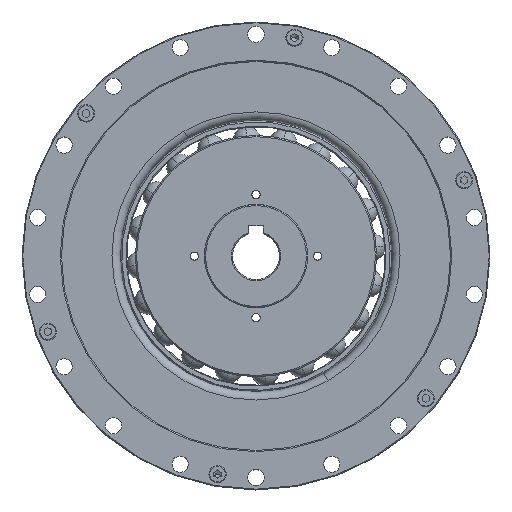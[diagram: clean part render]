
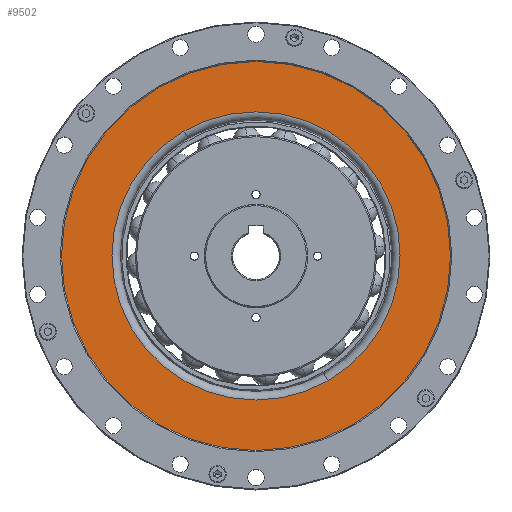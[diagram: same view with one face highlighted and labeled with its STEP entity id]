
A CAD part, top view. The second image highlights one B-rep face of the part: STEP entity #9502.
In plain terms, the highlighted planar face has unit normal (0, 0, 1).
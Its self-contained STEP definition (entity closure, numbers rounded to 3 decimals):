
#1622 = EDGE_CURVE ( 'NONE', #3276, #8351, #14871, .T. ) ;
#2222 = AXIS2_PLACEMENT_3D ( 'NONE', #12765, #11130, #5988 ) ;
#3276 = VERTEX_POINT ( 'NONE', #4435 ) ;
#3431 = CARTESIAN_POINT ( 'NONE',  ( -43.56, 82.994, 196.2 ) ) ;
#3452 = CARTESIAN_POINT ( 'NONE',  ( 25.196, -36.094, 196.2 ) ) ;
#3607 = CIRCLE ( 'NONE', #16686, 79. ) ;
#3622 = FACE_OUTER_BOUND ( 'NONE', #14809, .T. ) ;
#3718 = AXIS2_PLACEMENT_3D ( 'NONE', #10792, #10831, #10927 ) ;
#3729 = EDGE_CURVE ( 'NONE', #8351, #3276, #10529, .T. ) ;
#4000 = FACE_BOUND ( 'NONE', #12337, .T. ) ;
#4334 = EDGE_CURVE ( 'NONE', #6882, #12155, #16132, .T. ) ;
#4435 = CARTESIAN_POINT ( 'NONE',  ( -33.315, 65.25, 196.2 ) ) ;
#5451 = DIRECTION ( 'NONE',  ( -0.5, 0.866, 0. ) ) ;
#5988 = DIRECTION ( 'NONE',  ( -0.5, 0.866, 0. ) ) ;
#6511 = CARTESIAN_POINT ( 'NONE',  ( -4.06, 14.578, 196.2 ) ) ;
#6553 = DIRECTION ( 'NONE',  ( 0., 0., -1. ) ) ;
#6882 = VERTEX_POINT ( 'NONE', #8521 ) ;
#7148 = ORIENTED_EDGE ( 'NONE', *, *, #1622, .T. ) ;
#7304 = PLANE ( 'NONE',  #2222 ) ;
#7689 = ORIENTED_EDGE ( 'NONE', *, *, #3729, .T. ) ;
#7724 = ORIENTED_EDGE ( 'NONE', *, *, #4334, .T. ) ;
#8110 = ORIENTED_EDGE ( 'NONE', *, *, #8231, .T. ) ;
#8231 = EDGE_CURVE ( 'NONE', #12155, #6882, #3607, .T. ) ;
#8351 = VERTEX_POINT ( 'NONE', #3452 ) ;
#8521 = CARTESIAN_POINT ( 'NONE',  ( 35.44, -53.838, 196.2 ) ) ;
#9379 = CARTESIAN_POINT ( 'NONE',  ( -4.06, 14.578, 196.2 ) ) ;
#9502 = ADVANCED_FACE ( 'NONE', ( #4000, #3622 ), #7304, .F. ) ;
#9635 = DIRECTION ( 'NONE',  ( -0.5, 0.866, 0. ) ) ;
#10295 = DIRECTION ( 'NONE',  ( 0.5, -0.866, 0. ) ) ;
#10307 = AXIS2_PLACEMENT_3D ( 'NONE', #9379, #10337, #9635 ) ;
#10337 = DIRECTION ( 'NONE',  ( 0., 0., -1. ) ) ;
#10390 = DIRECTION ( 'NONE',  ( 0., 0., 1. ) ) ;
#10464 = CARTESIAN_POINT ( 'NONE',  ( -4.06, 14.578, 196.2 ) ) ;
#10529 = CIRCLE ( 'NONE', #10985, 58.511 ) ;
#10792 = CARTESIAN_POINT ( 'NONE',  ( -4.06, 14.578, 196.2 ) ) ;
#10831 = DIRECTION ( 'NONE',  ( 0., 0., 1. ) ) ;
#10927 = DIRECTION ( 'NONE',  ( 0.5, -0.866, 0. ) ) ;
#10985 = AXIS2_PLACEMENT_3D ( 'NONE', #6511, #6553, #5451 ) ;
#11130 = DIRECTION ( 'NONE',  ( 0., 0., -1. ) ) ;
#12155 = VERTEX_POINT ( 'NONE', #3431 ) ;
#12337 = EDGE_LOOP ( 'NONE', ( #7148, #7689 ) ) ;
#12765 = CARTESIAN_POINT ( 'NONE',  ( 43.754, 42.183, 196.2 ) ) ;
#14809 = EDGE_LOOP ( 'NONE', ( #7724, #8110 ) ) ;
#14871 = CIRCLE ( 'NONE', #10307, 58.511 ) ;
#16132 = CIRCLE ( 'NONE', #3718, 79. ) ;
#16686 = AXIS2_PLACEMENT_3D ( 'NONE', #10464, #10390, #10295 ) ;
